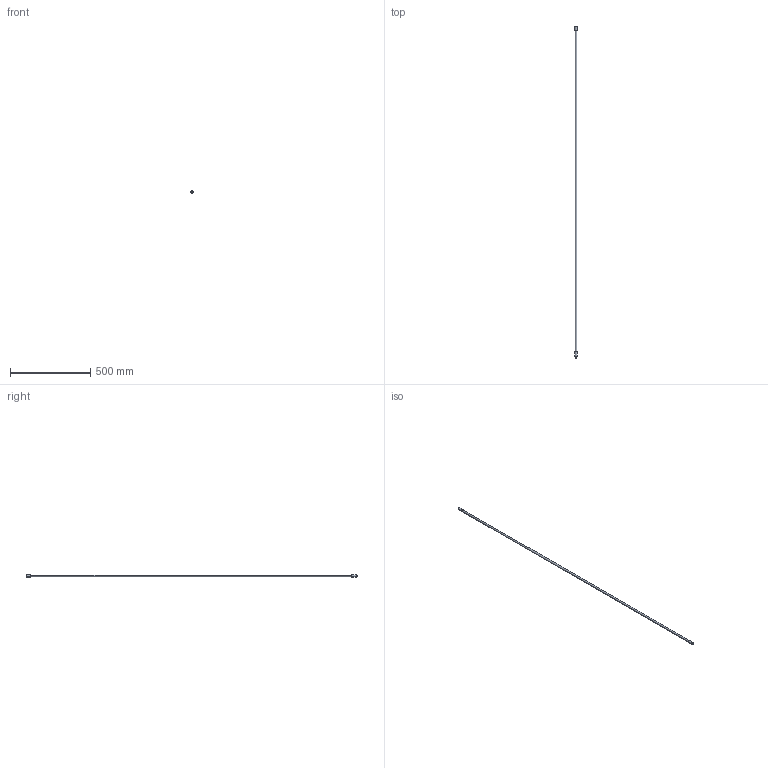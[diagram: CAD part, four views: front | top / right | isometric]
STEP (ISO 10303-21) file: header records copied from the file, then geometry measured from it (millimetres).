
FILE_DESCRIPTION((''),'2;1');
FILE_NAME('BRACKET-1055','2023-03-23T21:24:17',('Administrator'),(''),'CREO PARAMETRIC BY PTC INC, 2020053','CREO PARAMETRIC BY PTC INC, 2020053','');
FILE_SCHEMA(('CONFIG_CONTROL_DESIGN','SHAPE_APPEARANCE_LAYERS_GROUPS'));
Length unit declared in the file: millimetre
Products named in the file (1): BRACKET-1055
Bounding box: 15 x 2065 x 15 mm (x, y, z)
Volume: 236426.3 mm3; surface area: 78636.8 mm2
Topology: 1 solids, 1 shells, 29 faces, 56 edges, 32 vertices
Faces by surface type: torus 16, cylinder 8, plane 5
Entity records: 1005 total; most frequent: DIRECTION 162, CARTESIAN_POINT 117, ORIENTED_EDGE 112, AXIS2_PLACEMENT_3D 77, EDGE_CURVE 56, CIRCLE 48, VERTEX_POINT 32, EDGE_LOOP 32
